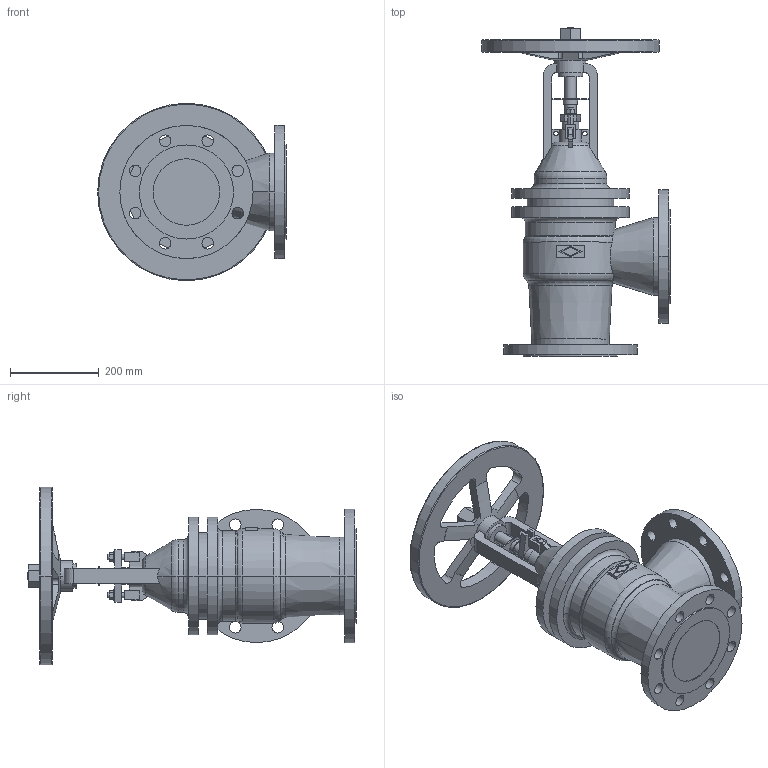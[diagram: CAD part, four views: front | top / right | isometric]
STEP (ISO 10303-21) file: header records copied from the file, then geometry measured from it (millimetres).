
FILE_DESCRIPTION(('OneSpaceDesigner STEP Export'),'2;1');
FILE_NAME('c000004444.stp','2010-05-17T 9:38:47',(''),(''),'OneSpace Designer STEP processor for AP214 (Solid Model)','OneSpace Modeling 15.50B 03-Nov-2007 (C) CoCreate Software GmbH','');
FILE_SCHEMA(('AUTOMOTIVE_DESIGN { 1 0 10303 214 1 1 1 1 }'));
Length unit declared in the file: millimetre
Products named in the file (1): 1
Bounding box: 425 x 740.8 x 400 mm (x, y, z)
Volume: 21127106.6 mm3; surface area: 1061825.6 mm2
Topology: 1 solids, 1 shells, 325 faces, 887 edges, 584 vertices
Faces by surface type: plane 146, cylinder 136, torus 29, cone 14
Entity records: 12805 total; most frequent: CARTESIAN_POINT 2421, ORIENTED_EDGE 1774, DIRECTION 1430, EDGE_CURVE 887, VERTEX_POINT 584, AXIS2_PLACEMENT_3D 499, VECTOR 432, LINE 432
